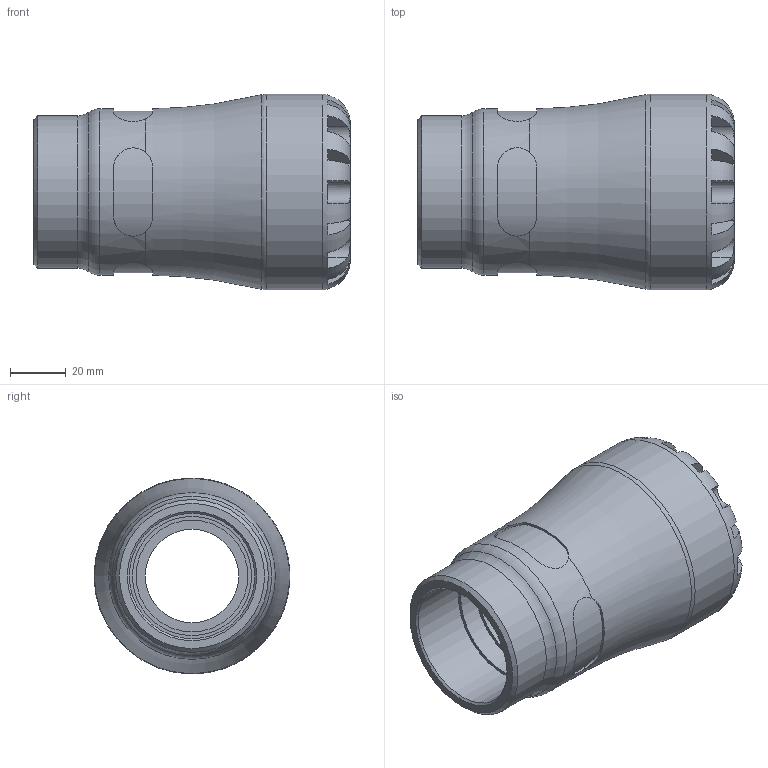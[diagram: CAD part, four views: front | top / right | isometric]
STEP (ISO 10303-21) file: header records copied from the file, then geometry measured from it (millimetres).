
FILE_DESCRIPTION(/* description */ ('PLASSON FEMALE INTEGRAL BRASS THREAD 40X1.1/2" SERIES 1'),/* implementation_level */ '2;1');
FILE_NAME(/* name */ 'C:\Dropbox\KIMPROJECTS-Inventor\99-16-3568-Processing\1073\107300040015_197300040015.ipt.stp',/* time_stamp */ '2017-01-22T11:35:40+02:00',/* author */ ('KIM'),/* organization */ (''),/* preprocessor_version */ 'ST-DEVELOPER v15.6',/* originating_system */ 'Autodesk Inventor 2015',/* authorisation */ '');
FILE_SCHEMA (('AUTOMOTIVE_DESIGN { 1 0 10303 214 3 1 1 }'));
Length unit declared in the file: millimetre
Products named in the file (1): 107300040015_197300040015
Bounding box: 113 x 70 x 70 mm (x, y, z)
Volume: 194615.1 mm3; surface area: 42282.9 mm2
Topology: 1 solids, 1 shells, 106 faces, 269 edges, 169 vertices
Faces by surface type: plane 62, cylinder 36, torus 5, cone 3
Full cylindrical faces by diameter (mm): 33.333 x1, 40 x2, 42.603 x1, 44.845 x1, 54.6 x1, 59.5 x1, 70 x1
Entity records: 3908 total; most frequent: CARTESIAN_POINT 1487, ORIENTED_EDGE 496, DIRECTION 486, EDGE_CURVE 248, AXIS2_PLACEMENT_3D 203, VERTEX_POINT 164, EDGE_LOOP 128, FACE_OUTER_BOUND 106
